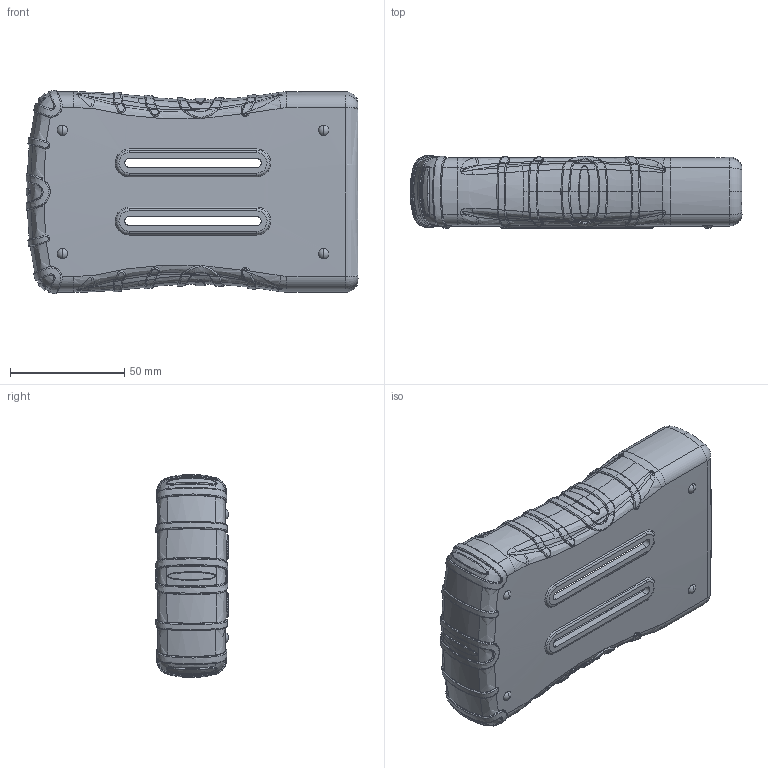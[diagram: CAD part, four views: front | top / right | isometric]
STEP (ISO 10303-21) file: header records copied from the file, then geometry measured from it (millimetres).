
FILE_DESCRIPTION (( 'STEP AP214' ), '1' );
FILE_NAME ('VM-35-BOOT.STEP', '2010-07-09T15:37:58', ( '' ), ( '' ), 'SwSTEP 2.0', 'SolidWorks 2010', '' );
FILE_SCHEMA (( 'AUTOMOTIVE_DESIGN' ));
Length unit declared in the file: inch
Products named in the file (1): VM-35-BOOT
Bounding box: 145.17 x 31.9 x 88.88 mm (x, y, z)
Volume: 52265.2 mm3; surface area: 48813.7 mm2
Topology: 1 solids, 1 shells, 924 faces, 2366 edges, 1451 vertices
Faces by surface type: bspline 647, cylinder 118, torus 81, cone 35, plane 35, sphere 8
Entity records: 111233 total; most frequent: CARTESIAN_POINT 94408, ORIENTED_EDGE 4728, EDGE_CURVE 2364, DIRECTION 1716, B_SPLINE_CURVE_WITH_KNOTS 1687, VERTEX_POINT 1451, EDGE_LOOP 939, ADVANCED_FACE 924
